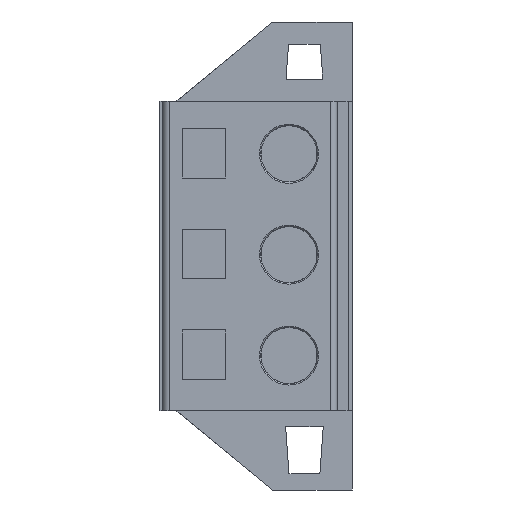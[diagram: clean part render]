
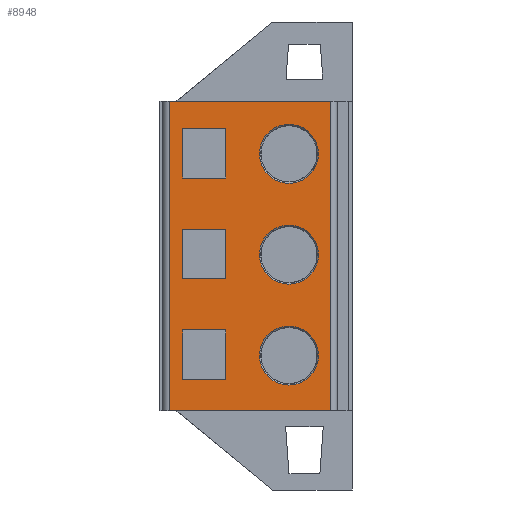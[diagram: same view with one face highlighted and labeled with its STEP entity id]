
A CAD part, front view. The second image highlights one B-rep face of the part: STEP entity #8948.
In plain terms, the highlighted planar face has unit normal (0, -1, 0).
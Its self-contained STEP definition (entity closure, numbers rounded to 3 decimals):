
#23=DIRECTION('',(-1.,0.,0.));
#24=VECTOR('',#23,12.);
#25=CARTESIAN_POINT('',(12.8,0.,-5.9));
#26=LINE('',#25,#24);
#129=DIRECTION('',(0.,0.,1.));
#130=VECTOR('',#129,23.);
#131=CARTESIAN_POINT('',(12.8,0.,-28.9));
#132=LINE('',#131,#130);
#2611=DIRECTION('',(0.,0.,-1.));
#2612=VECTOR('',#2611,23.);
#2613=CARTESIAN_POINT('',(0.8,0.,-5.9));
#2614=LINE('',#2613,#2612);
#2619=DIRECTION('',(-1.,0.,0.));
#2620=VECTOR('',#2619,12.);
#2621=CARTESIAN_POINT('',(12.8,0.,-28.9));
#2622=LINE('',#2621,#2620);
#2623=CARTESIAN_POINT('',(9.7,0.,-24.8));
#2624=DIRECTION('',(0.,-1.,0.));
#2625=DIRECTION('',(-0.707,0.,-0.707));
#2626=AXIS2_PLACEMENT_3D('',#2623,#2624,#2625);
#2628=CARTESIAN_POINT('',(9.7,0.,-24.8));
#2629=DIRECTION('',(0.,-1.,0.));
#2630=DIRECTION('',(0.,0.,-1.));
#2631=AXIS2_PLACEMENT_3D('',#2628,#2629,#2630);
#2633=CARTESIAN_POINT('',(9.7,0.,-24.8));
#2634=DIRECTION('',(0.,-1.,0.));
#2635=DIRECTION('',(0.707,0.,-0.707));
#2636=AXIS2_PLACEMENT_3D('',#2633,#2634,#2635);
#2638=CARTESIAN_POINT('',(9.7,0.,-24.8));
#2639=DIRECTION('',(0.,-1.,0.));
#2640=DIRECTION('',(0.,0.,1.));
#2641=AXIS2_PLACEMENT_3D('',#2638,#2639,#2640);
#2643=CARTESIAN_POINT('',(9.7,0.,-17.3));
#2644=DIRECTION('',(0.,-1.,0.));
#2645=DIRECTION('',(-0.707,0.,-0.707));
#2646=AXIS2_PLACEMENT_3D('',#2643,#2644,#2645);
#2648=CARTESIAN_POINT('',(9.7,0.,-17.3));
#2649=DIRECTION('',(0.,-1.,0.));
#2650=DIRECTION('',(0.,0.,-1.));
#2651=AXIS2_PLACEMENT_3D('',#2648,#2649,#2650);
#2653=CARTESIAN_POINT('',(9.7,0.,-17.3));
#2654=DIRECTION('',(0.,-1.,0.));
#2655=DIRECTION('',(0.707,0.,-0.707));
#2656=AXIS2_PLACEMENT_3D('',#2653,#2654,#2655);
#2658=CARTESIAN_POINT('',(9.7,0.,-17.3));
#2659=DIRECTION('',(0.,-1.,0.));
#2660=DIRECTION('',(0.,0.,1.));
#2661=AXIS2_PLACEMENT_3D('',#2658,#2659,#2660);
#2663=CARTESIAN_POINT('',(9.7,0.,-9.8));
#2664=DIRECTION('',(0.,-1.,0.));
#2665=DIRECTION('',(-0.707,0.,-0.707));
#2666=AXIS2_PLACEMENT_3D('',#2663,#2664,#2665);
#2668=CARTESIAN_POINT('',(9.7,0.,-9.8));
#2669=DIRECTION('',(0.,-1.,0.));
#2670=DIRECTION('',(0.,0.,-1.));
#2671=AXIS2_PLACEMENT_3D('',#2668,#2669,#2670);
#2673=CARTESIAN_POINT('',(9.7,0.,-9.8));
#2674=DIRECTION('',(0.,-1.,0.));
#2675=DIRECTION('',(0.707,0.,-0.707));
#2676=AXIS2_PLACEMENT_3D('',#2673,#2674,#2675);
#2678=CARTESIAN_POINT('',(9.7,0.,-9.8));
#2679=DIRECTION('',(0.,-1.,0.));
#2680=DIRECTION('',(0.,0.,1.));
#2681=AXIS2_PLACEMENT_3D('',#2678,#2679,#2680);
#2750=DIRECTION('',(-1.,0.,0.));
#2751=VECTOR('',#2750,3.2);
#2752=CARTESIAN_POINT('',(5.,0.,-11.6));
#2753=LINE('',#2752,#2751);
#2762=DIRECTION('',(0.,0.,-1.));
#2763=VECTOR('',#2762,3.7);
#2764=CARTESIAN_POINT('',(5.,0.,-7.9));
#2765=LINE('',#2764,#2763);
#2774=DIRECTION('',(1.,0.,0.));
#2775=VECTOR('',#2774,3.2);
#2776=CARTESIAN_POINT('',(1.8,0.,-7.9));
#2777=LINE('',#2776,#2775);
#2786=DIRECTION('',(0.,0.,1.));
#2787=VECTOR('',#2786,3.7);
#2788=CARTESIAN_POINT('',(1.8,0.,-11.6));
#2789=LINE('',#2788,#2787);
#2867=DIRECTION('',(-1.,0.,0.));
#2868=VECTOR('',#2867,3.2);
#2869=CARTESIAN_POINT('',(5.,0.,-26.6));
#2870=LINE('',#2869,#2868);
#2879=DIRECTION('',(0.,0.,-1.));
#2880=VECTOR('',#2879,3.7);
#2881=CARTESIAN_POINT('',(5.,0.,-22.9));
#2882=LINE('',#2881,#2880);
#2891=DIRECTION('',(1.,0.,0.));
#2892=VECTOR('',#2891,3.2);
#2893=CARTESIAN_POINT('',(1.8,0.,-22.9));
#2894=LINE('',#2893,#2892);
#2903=DIRECTION('',(0.,0.,1.));
#2904=VECTOR('',#2903,3.7);
#2905=CARTESIAN_POINT('',(1.8,0.,-26.6));
#2906=LINE('',#2905,#2904);
#2925=DIRECTION('',(-1.,0.,0.));
#2926=VECTOR('',#2925,3.2);
#2927=CARTESIAN_POINT('',(5.,0.,-19.1));
#2928=LINE('',#2927,#2926);
#2937=DIRECTION('',(0.,0.,-1.));
#2938=VECTOR('',#2937,3.7);
#2939=CARTESIAN_POINT('',(5.,0.,-15.4));
#2940=LINE('',#2939,#2938);
#2949=DIRECTION('',(1.,0.,0.));
#2950=VECTOR('',#2949,3.2);
#2951=CARTESIAN_POINT('',(1.8,0.,-15.4));
#2952=LINE('',#2951,#2950);
#2961=DIRECTION('',(0.,0.,1.));
#2962=VECTOR('',#2961,3.7);
#2963=CARTESIAN_POINT('',(1.8,0.,-19.1));
#2964=LINE('',#2963,#2962);
#4048=CARTESIAN_POINT('',(0.8,0.,-5.9));
#4049=CARTESIAN_POINT('',(0.8,0.,-28.9));
#4050=VERTEX_POINT('',#4048);
#4051=VERTEX_POINT('',#4049);
#4052=CARTESIAN_POINT('',(12.8,0.,-28.9));
#4053=CARTESIAN_POINT('',(12.8,0.,-5.9));
#4054=VERTEX_POINT('',#4052);
#4055=VERTEX_POINT('',#4053);
#4056=CARTESIAN_POINT('',(9.7,0.,-26.994));
#4057=CARTESIAN_POINT('',(11.251,0.,
-26.351));
#4058=VERTEX_POINT('',#4056);
#4059=VERTEX_POINT('',#4057);
#4060=CARTESIAN_POINT('',(8.149,0.,
-26.351));
#4061=VERTEX_POINT('',#4060);
#4062=CARTESIAN_POINT('',(9.7,0.,
-22.606));
#4063=VERTEX_POINT('',#4062);
#4064=CARTESIAN_POINT('',(1.8,0.,-26.6));
#4065=CARTESIAN_POINT('',(1.8,0.,-22.9));
#4066=VERTEX_POINT('',#4064);
#4067=VERTEX_POINT('',#4065);
#4068=CARTESIAN_POINT('',(5.,0.,-26.6));
#4069=VERTEX_POINT('',#4068);
#4070=CARTESIAN_POINT('',(5.,0.,-22.9));
#4071=VERTEX_POINT('',#4070);
#4072=CARTESIAN_POINT('',(9.7,0.,-19.494));
#4073=CARTESIAN_POINT('',(11.251,0.,
-18.851));
#4074=VERTEX_POINT('',#4072);
#4075=VERTEX_POINT('',#4073);
#4076=CARTESIAN_POINT('',(8.149,0.,
-18.851));
#4077=VERTEX_POINT('',#4076);
#4078=CARTESIAN_POINT('',(9.7,0.,
-15.106));
#4079=VERTEX_POINT('',#4078);
#4080=CARTESIAN_POINT('',(1.8,0.,-19.1));
#4081=CARTESIAN_POINT('',(1.8,0.,-15.4));
#4082=VERTEX_POINT('',#4080);
#4083=VERTEX_POINT('',#4081);
#4084=CARTESIAN_POINT('',(5.,0.,-19.1));
#4085=VERTEX_POINT('',#4084);
#4086=CARTESIAN_POINT('',(5.,0.,-15.4));
#4087=VERTEX_POINT('',#4086);
#4088=CARTESIAN_POINT('',(9.7,0.,-11.994));
#4089=CARTESIAN_POINT('',(11.251,0.,
-11.351));
#4090=VERTEX_POINT('',#4088);
#4091=VERTEX_POINT('',#4089);
#4092=CARTESIAN_POINT('',(8.149,0.,
-11.351));
#4093=VERTEX_POINT('',#4092);
#4094=CARTESIAN_POINT('',(9.7,0.,
-7.606));
#4095=VERTEX_POINT('',#4094);
#4096=CARTESIAN_POINT('',(1.8,0.,-11.6));
#4097=CARTESIAN_POINT('',(1.8,0.,-7.9));
#4098=VERTEX_POINT('',#4096);
#4099=VERTEX_POINT('',#4097);
#4100=CARTESIAN_POINT('',(5.,0.,-11.6));
#4101=VERTEX_POINT('',#4100);
#4102=CARTESIAN_POINT('',(5.,0.,-7.9));
#4103=VERTEX_POINT('',#4102);
#8877=CARTESIAN_POINT('',(0.8,0.,-7.4));
#8878=DIRECTION('',(0.,-1.,0.));
#8879=DIRECTION('',(1.,0.,0.));
#8880=AXIS2_PLACEMENT_3D('',#8877,#8878,#8879);
#8881=PLANE('',#8880);
#8882=ORIENTED_EDGE('',*,*,#5285,.F.);
#8883=ORIENTED_EDGE('',*,*,#8648,.T.);
#8884=ORIENTED_EDGE('',*,*,#8869,.F.);
#8885=ORIENTED_EDGE('',*,*,#5200,.F.);
#8886=EDGE_LOOP('',(#8882,#8883,#8884,#8885));
#8887=FACE_OUTER_BOUND('',#8886,.F.);
#8889=ORIENTED_EDGE('',*,*,#8888,.T.);
#8891=ORIENTED_EDGE('',*,*,#8890,.T.);
#8893=ORIENTED_EDGE('',*,*,#8892,.T.);
#8895=ORIENTED_EDGE('',*,*,#8894,.T.);
#8896=EDGE_LOOP('',(#8889,#8891,#8893,#8895));
#8897=FACE_BOUND('',#8896,.F.);
#8899=ORIENTED_EDGE('',*,*,#8898,.F.);
#8901=ORIENTED_EDGE('',*,*,#8900,.F.);
#8903=ORIENTED_EDGE('',*,*,#8902,.F.);
#8905=ORIENTED_EDGE('',*,*,#8904,.F.);
#8906=EDGE_LOOP('',(#8899,#8901,#8903,#8905));
#8907=FACE_BOUND('',#8906,.F.);
#8909=ORIENTED_EDGE('',*,*,#8908,.T.);
#8911=ORIENTED_EDGE('',*,*,#8910,.T.);
#8913=ORIENTED_EDGE('',*,*,#8912,.T.);
#8915=ORIENTED_EDGE('',*,*,#8914,.T.);
#8916=EDGE_LOOP('',(#8909,#8911,#8913,#8915));
#8917=FACE_BOUND('',#8916,.F.);
#8919=ORIENTED_EDGE('',*,*,#8918,.F.);
#8921=ORIENTED_EDGE('',*,*,#8920,.F.);
#8923=ORIENTED_EDGE('',*,*,#8922,.F.);
#8925=ORIENTED_EDGE('',*,*,#8924,.F.);
#8926=EDGE_LOOP('',(#8919,#8921,#8923,#8925));
#8927=FACE_BOUND('',#8926,.F.);
#8929=ORIENTED_EDGE('',*,*,#8928,.T.);
#8931=ORIENTED_EDGE('',*,*,#8930,.T.);
#8933=ORIENTED_EDGE('',*,*,#8932,.T.);
#8935=ORIENTED_EDGE('',*,*,#8934,.T.);
#8936=EDGE_LOOP('',(#8929,#8931,#8933,#8935));
#8937=FACE_BOUND('',#8936,.F.);
#8939=ORIENTED_EDGE('',*,*,#8938,.F.);
#8941=ORIENTED_EDGE('',*,*,#8940,.F.);
#8943=ORIENTED_EDGE('',*,*,#8942,.F.);
#8945=ORIENTED_EDGE('',*,*,#8944,.F.);
#8946=EDGE_LOOP('',(#8939,#8941,#8943,#8945));
#8947=FACE_BOUND('',#8946,.F.);
#8948=ADVANCED_FACE('',(#8887,#8897,#8907,#8917,#8927,#8937,#8947),#8881,.T.);
#2627=CIRCLE('',#2626,2.194);
#2632=CIRCLE('',#2631,2.194);
#2637=CIRCLE('',#2636,2.194);
#2642=CIRCLE('',#2641,2.194);
#2647=CIRCLE('',#2646,2.194);
#2652=CIRCLE('',#2651,2.194);
#2657=CIRCLE('',#2656,2.194);
#2662=CIRCLE('',#2661,2.194);
#2667=CIRCLE('',#2666,2.194);
#2672=CIRCLE('',#2671,2.194);
#2677=CIRCLE('',#2676,2.194);
#2682=CIRCLE('',#2681,2.194);
#5200=EDGE_CURVE('',#4055,#4050,#26,.T.);
#5285=EDGE_CURVE('',#4054,#4055,#132,.T.);
#8648=EDGE_CURVE('',#4054,#4051,#2622,.T.);
#8869=EDGE_CURVE('',#4050,#4051,#2614,.T.);
#8888=EDGE_CURVE('',#4061,#4058,#2627,.T.);
#8890=EDGE_CURVE('',#4058,#4059,#2632,.T.);
#8892=EDGE_CURVE('',#4059,#4063,#2637,.T.);
#8894=EDGE_CURVE('',#4063,#4061,#2642,.T.);
#8898=EDGE_CURVE('',#4066,#4067,#2906,.T.);
#8900=EDGE_CURVE('',#4069,#4066,#2870,.T.);
#8902=EDGE_CURVE('',#4071,#4069,#2882,.T.);
#8904=EDGE_CURVE('',#4067,#4071,#2894,.T.);
#8908=EDGE_CURVE('',#4077,#4074,#2647,.T.);
#8910=EDGE_CURVE('',#4074,#4075,#2652,.T.);
#8912=EDGE_CURVE('',#4075,#4079,#2657,.T.);
#8914=EDGE_CURVE('',#4079,#4077,#2662,.T.);
#8918=EDGE_CURVE('',#4082,#4083,#2964,.T.);
#8920=EDGE_CURVE('',#4085,#4082,#2928,.T.);
#8922=EDGE_CURVE('',#4087,#4085,#2940,.T.);
#8924=EDGE_CURVE('',#4083,#4087,#2952,.T.);
#8928=EDGE_CURVE('',#4093,#4090,#2667,.T.);
#8930=EDGE_CURVE('',#4090,#4091,#2672,.T.);
#8932=EDGE_CURVE('',#4091,#4095,#2677,.T.);
#8934=EDGE_CURVE('',#4095,#4093,#2682,.T.);
#8938=EDGE_CURVE('',#4098,#4099,#2789,.T.);
#8940=EDGE_CURVE('',#4101,#4098,#2753,.T.);
#8942=EDGE_CURVE('',#4103,#4101,#2765,.T.);
#8944=EDGE_CURVE('',#4099,#4103,#2777,.T.);
